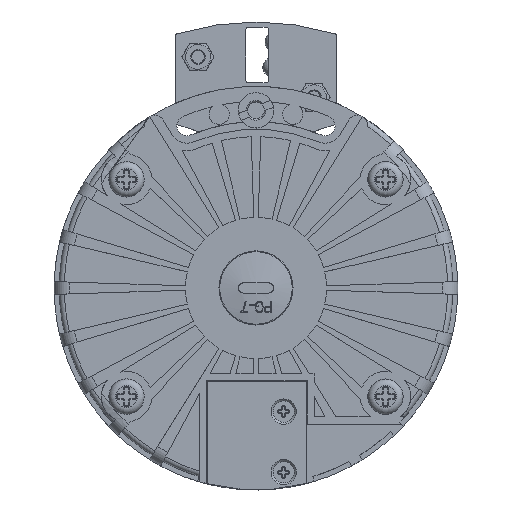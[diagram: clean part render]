
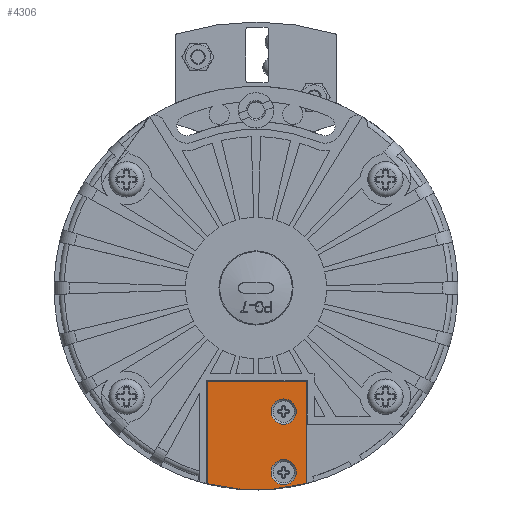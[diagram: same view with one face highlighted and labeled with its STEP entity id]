
A CAD part, top view. The second image highlights one B-rep face of the part: STEP entity #4306.
In plain terms, the highlighted planar face has unit normal (0, 0, 1).
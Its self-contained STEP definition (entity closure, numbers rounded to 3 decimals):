
#4306 = ADVANCED_FACE( '', ( #8877, #8878, #8879 ), #8880, .T. );
#8877 = FACE_OUTER_BOUND( '', #20048, .T. );
#8878 = FACE_BOUND( '', #20049, .T. );
#8879 = FACE_BOUND( '', #20050, .T. );
#8880 = PLANE( '', #20051 );
#20048 = EDGE_LOOP( '', ( #32446, #32447, #32448, #32449 ) );
#20049 = EDGE_LOOP( '', ( #32450 ) );
#20050 = EDGE_LOOP( '', ( #32451 ) );
#20051 = AXIS2_PLACEMENT_3D( '', #32452, #32453, #32454 );
#32446 = ORIENTED_EDGE( '', *, *, #34583, .T. );
#32447 = ORIENTED_EDGE( '', *, *, #36532, .T. );
#32448 = ORIENTED_EDGE( '', *, *, #36156, .T. );
#32449 = ORIENTED_EDGE( '', *, *, #32781, .T. );
#32450 = ORIENTED_EDGE( '', *, *, #35276, .T. );
#32451 = ORIENTED_EDGE( '', *, *, #36017, .T. );
#32452 = CARTESIAN_POINT( '', ( 0., 0., 25. ) );
#32453 = DIRECTION( '', ( 0., 0., 1. ) );
#32454 = DIRECTION( '', ( 1., 0., 0. ) );
#32781 = EDGE_CURVE( '', #37790, #37788, #37791, .T. );
#34583 = EDGE_CURVE( '', #37788, #40769, #40771, .T. );
#35276 = EDGE_CURVE( '', #41790, #41790, #41791, .T. );
#36017 = EDGE_CURVE( '', #42747, #42747, #42748, .T. );
#36156 = EDGE_CURVE( '', #42916, #37790, #42917, .T. );
#36532 = EDGE_CURVE( '', #40769, #42916, #43356, .T. );
#37788 = VERTEX_POINT( '', #44863 );
#37790 = VERTEX_POINT( '', #44866 );
#37791 = CIRCLE( '', #44867, 40. );
#40769 = VERTEX_POINT( '', #51091 );
#40771 = LINE( '', #51094, #51095 );
#41790 = VERTEX_POINT( '', #53821 );
#41791 = CIRCLE( '', #53822, 2.5 );
#42747 = VERTEX_POINT( '', #55531 );
#42748 = CIRCLE( '', #55532, 2.5 );
#42916 = VERTEX_POINT( '', #55830 );
#42917 = LINE( '', #55831, #55832 );
#43356 = LINE( '', #56964, #56965 );
#44863 = CARTESIAN_POINT( '', ( 10., -38.73, 25. ) );
#44866 = CARTESIAN_POINT( '', ( -9.7, -38.806, 25. ) );
#44867 = AXIS2_PLACEMENT_3D( '', #58666, #58667, #58668 );
#51091 = CARTESIAN_POINT( '', ( 10., -18.5, 25. ) );
#51094 = CARTESIAN_POINT( '', ( 10., -38.73, 25. ) );
#51095 = VECTOR( '', #60793, 1000. );
#53821 = CARTESIAN_POINT( '', ( 5.5, -39., 25. ) );
#53822 = AXIS2_PLACEMENT_3D( '', #61576, #61577, #61578 );
#55531 = CARTESIAN_POINT( '', ( 5.5, -27., 25. ) );
#55532 = AXIS2_PLACEMENT_3D( '', #62276, #62277, #62278 );
#55830 = CARTESIAN_POINT( '', ( -9.7, -18.5, 25. ) );
#55831 = CARTESIAN_POINT( '', ( -9.7, -38.806, 25. ) );
#55832 = VECTOR( '', #62394, 1000. );
#56964 = CARTESIAN_POINT( '', ( 10., -18.5, 25. ) );
#56965 = VECTOR( '', #62693, 1000. );
#58666 = CARTESIAN_POINT( '', ( 0., 0., 25. ) );
#58667 = DIRECTION( '', ( 0., 0., 1. ) );
#58668 = DIRECTION( '', ( -1., 0., 0. ) );
#60793 = DIRECTION( '', ( 0., 1., 0. ) );
#61576 = CARTESIAN_POINT( '', ( 5.5, -36.5, 25. ) );
#61577 = DIRECTION( '', ( 0., 0., -1. ) );
#61578 = DIRECTION( '', ( 0., -1., 0. ) );
#62276 = CARTESIAN_POINT( '', ( 5.5, -24.5, 25. ) );
#62277 = DIRECTION( '', ( 0., 0., -1. ) );
#62278 = DIRECTION( '', ( 0., -1., 0. ) );
#62394 = DIRECTION( '', ( 0., -1., 0. ) );
#62693 = DIRECTION( '', ( -1., 0., 0. ) );
